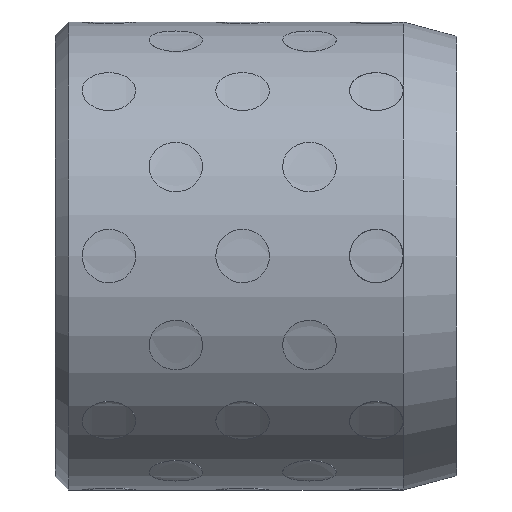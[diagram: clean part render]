
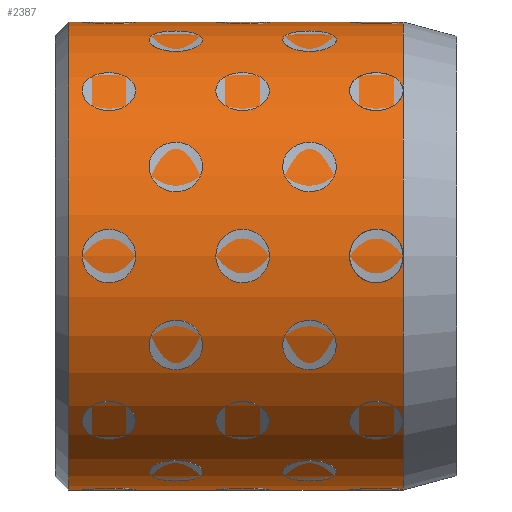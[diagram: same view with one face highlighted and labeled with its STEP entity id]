
A CAD part, left-side view. The second image highlights one B-rep face of the part: STEP entity #2387.
In plain terms, the highlighted cylindrical face has radius 17.5 mm (diameter 35 mm), a full revolution.
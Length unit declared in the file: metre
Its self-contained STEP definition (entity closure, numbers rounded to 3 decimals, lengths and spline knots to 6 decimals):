
#2387 = ADVANCED_FACE( '', ( #2553, #2554 ), #2555, .T. );
#2553 = FACE_OUTER_BOUND( '', #2913, .T. );
#2554 = FACE_OUTER_BOUND( '', #2914, .T. );
#2555 = CYLINDRICAL_SURFACE( '', #2915, 0.0175 );
#2913 = EDGE_LOOP( '', ( #3285 ) );
#2914 = EDGE_LOOP( '', ( #3286 ) );
#2915 = AXIS2_PLACEMENT_3D( '', #3287, #3288, #3289 );
#3285 = ORIENTED_EDGE( '', *, *, #3926, .T. );
#3286 = ORIENTED_EDGE( '', *, *, #3925, .F. );
#3287 = CARTESIAN_POINT( '', ( 0., 0., 0. ) );
#3288 = DIRECTION( '', ( 0., 1., 0. ) );
#3289 = DIRECTION( '', ( 0., 0., -1. ) );
#3925 = EDGE_CURVE( '', #4035, #4035, #4036, .T. );
#3926 = EDGE_CURVE( '', #4037, #4037, #4038, .T. );
#4035 = VERTEX_POINT( '', #4243 );
#4036 = CIRCLE( '', #4244, 0.0175 );
#4037 = VERTEX_POINT( '', #4245 );
#4038 = CIRCLE( '', #4246, 0.0175 );
#4243 = CARTESIAN_POINT( '', ( 0., 0.004, -0.0175 ) );
#4244 = AXIS2_PLACEMENT_3D( '', #9641, #9642, #9643 );
#4245 = CARTESIAN_POINT( '', ( 0., 0.029, -0.0175 ) );
#4246 = AXIS2_PLACEMENT_3D( '', #9644, #9645, #9646 );
#9641 = CARTESIAN_POINT( '', ( 0., 0.004, 0. ) );
#9642 = DIRECTION( '', ( 0., -1., 0. ) );
#9643 = DIRECTION( '', ( 0., 0., -1. ) );
#9644 = CARTESIAN_POINT( '', ( 0., 0.029, 0. ) );
#9645 = DIRECTION( '', ( 0., -1., 0. ) );
#9646 = DIRECTION( '', ( 0., 0., -1. ) );
